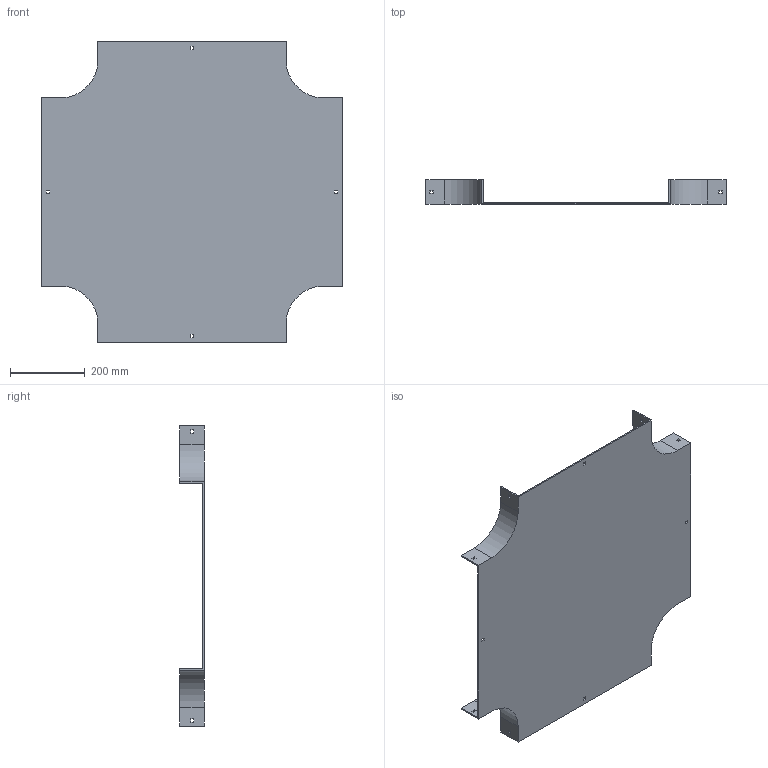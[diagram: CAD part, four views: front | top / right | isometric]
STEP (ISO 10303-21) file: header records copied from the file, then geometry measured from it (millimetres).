
FILE_DESCRIPTION (( 'STEP AP214' ), '1' );
FILE_NAME ('17B1H500.step', '2025-02-21T09:57:56', ( '' ), ( '' ), 'SwSTEP 2.0', 'SolidWorks 2023', '' );
FILE_SCHEMA (( 'AUTOMOTIVE_DESIGN' ));
Length unit declared in the file: millimetre
Products named in the file (1): 17B1H500
Bounding box: 804 x 65.5 x 804 mm (x, y, z)
Volume: 2200252.4 mm3; surface area: 1271064.2 mm2
Topology: 1 solids, 1 shells, 82 faces, 240 edges, 160 vertices
Faces by surface type: plane 74, cylinder 8
Entity records: 2751 total; most frequent: CARTESIAN_POINT 483, ORIENTED_EDGE 480, DIRECTION 422, EDGE_CURVE 240, LINE 224, VECTOR 224, VERTEX_POINT 160, EDGE_LOOP 106
